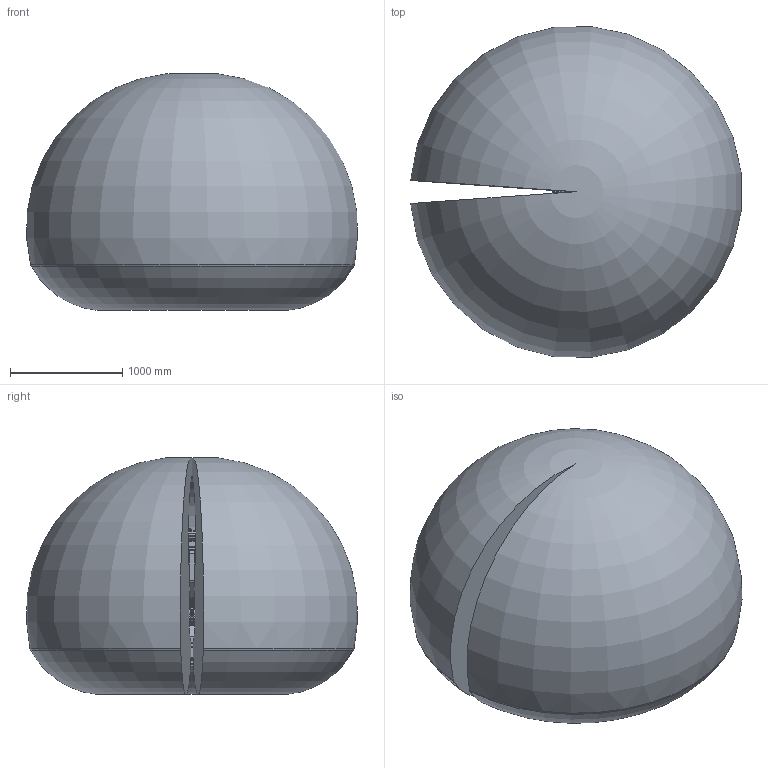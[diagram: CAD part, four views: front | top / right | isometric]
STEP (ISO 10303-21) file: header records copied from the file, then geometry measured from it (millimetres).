
FILE_DESCRIPTION (( 'STEP AP214' ), '1' );
FILE_NAME ('P007794_HORST1500_S1_Arbeitsraum.STEP', '2024-10-01T08:56:20', ( '' ), ( '' ), 'SwSTEP 2.0', 'SolidWorks 2019', '' );
FILE_SCHEMA (( 'AUTOMOTIVE_DESIGN' ));
Length unit declared in the file: millimetre
Products named in the file (17): P007794_TR2_S1; P007794_GK_P4_5_S1; P007794_GK_P8_9_S1; P007794_SC_S1; P007794_SO2_S1; P007794_SO1_S1; P007794_GK_P2_4_S1; P007794_GK_P9_10_S1; P007398_H1500 3D Arbeitsraum; P007794_GK_P5_6_S1; P007794_HORST1500_S1_Arbeitsraum; P007794_TR1_S1; P007794_GK_P3_5_S1; P007794_TR3_S1; P007794_GK_P1_7_S1; P007794_GK_P7_9_S1; P007794_Werkzeugflansch_S1
Assembly tree (16 placements, depth 2):
  P007794_HORST1500_S1_Arbeitsraum
    P007794_SO1_S1
    P007794_SO2_S1
    P007794_GK_P9_10_S1
    P007794_SC_S1
    P007794_TR1_S1
    P007794_TR2_S1
    P007794_TR3_S1
    P007794_GK_P8_9_S1
    P007794_GK_P7_9_S1
    P007794_GK_P1_7_S1
    P007794_GK_P2_4_S1
    P007794_GK_P3_5_S1
    P007794_GK_P4_5_S1
    P007794_GK_P5_6_S1
    P007794_Werkzeugflansch_S1
    P007398_H1500 3D Arbeitsraum
Bounding box: 2945.16 x 2945.87 x 2108.87 mm (x, y, z)
Volume: 9746445587 mm3; surface area: 35228109.7 mm2
Topology: 24 solids, 53 shells, 4469 faces, 10912 edges, 7014 vertices
Faces by surface type: plane 2650, cylinder 892, cone 540, bspline 253, torus 134
Full cylindrical faces by diameter (mm): 3.3 x5, 4 x1, 4.2 x2, 4.4 x2, 5 x20, 5.7 x2, 6 x8, 7 x11, 8 x16, 8.2 x1, 8.3 x1, 8.5 x64, 8.9 x2, 10 x25, 10.5 x8, 10.8 x11, 11 x28, 11.5 x1, 12 x6, 13 x6, 13.3 x1, 15 x4, 16 x8, 20 x1, 22 x2, 25 x1, 26 x1, 30 x20, 31.5 x5, 33 x1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
Entity records: 191483 total; most frequent: CARTESIAN_POINT 39933, ORIENTED_EDGE 20470, DIRECTION 20278, EDGE_CURVE 10237, VERTEX_POINT 6849, VECTOR 6780, LINE 6780, AXIS2_PLACEMENT_3D 6749
